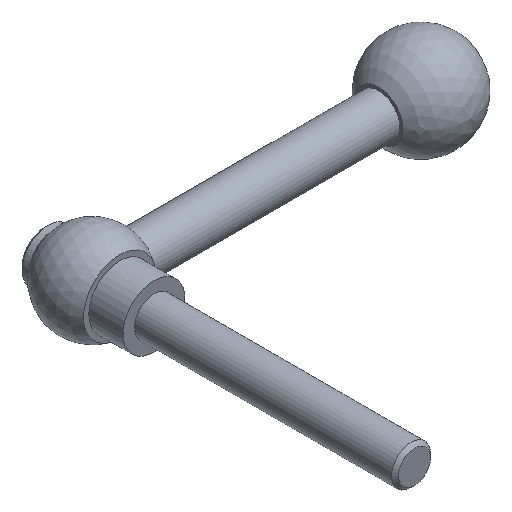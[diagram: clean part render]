
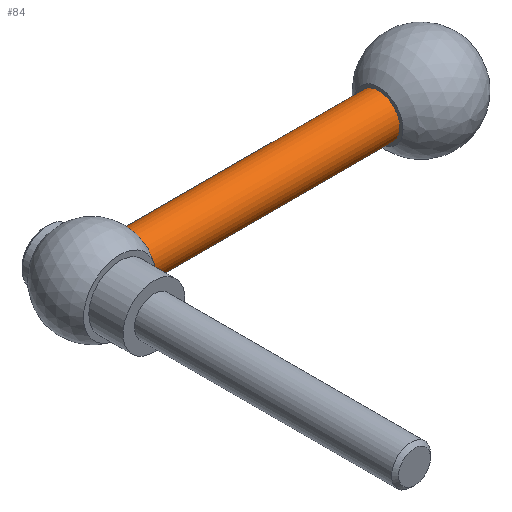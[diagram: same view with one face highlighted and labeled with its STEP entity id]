
A CAD part, isometric view. The second image highlights one B-rep face of the part: STEP entity #84.
In plain terms, the highlighted cylindrical face has radius 6.5 mm (diameter 13 mm), a full revolution.
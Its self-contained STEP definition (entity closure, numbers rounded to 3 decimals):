
#84 = ADVANCED_FACE( '', ( #116, #117 ), #118, .T. );
#116 = FACE_OUTER_BOUND( '', #154, .T. );
#117 = FACE_OUTER_BOUND( '', #155, .T. );
#118 = CYLINDRICAL_SURFACE( '', #156, 6.5 );
#154 = EDGE_LOOP( '', ( #210 ) );
#155 = EDGE_LOOP( '', ( #211 ) );
#156 = AXIS2_PLACEMENT_3D( '', #212, #213, #214 );
#210 = ORIENTED_EDGE( '', *, *, #239, .F. );
#211 = ORIENTED_EDGE( '', *, *, #236, .F. );
#212 = CARTESIAN_POINT( '', ( 116., 19., 0. ) );
#213 = DIRECTION( '', ( -1., 0., 0. ) );
#214 = DIRECTION( '', ( 0., 0., -1. ) );
#236 = EDGE_CURVE( '', #256, #256, #257, .T. );
#239 = EDGE_CURVE( '', #262, #262, #263, .T. );
#256 = VERTEX_POINT( '', #280 );
#257 = CIRCLE( '', #281, 6.5 );
#262 = VERTEX_POINT( '', #286 );
#263 = CIRCLE( '', #287, 6.5 );
#280 = CARTESIAN_POINT( '', ( 12.4, 19., 6.5 ) );
#281 = AXIS2_PLACEMENT_3D( '', #311, #312, #313 );
#286 = CARTESIAN_POINT( '', ( 88., 19., -6.5 ) );
#287 = AXIS2_PLACEMENT_3D( '', #320, #321, #322 );
#311 = CARTESIAN_POINT( '', ( 12.4, 19., 0. ) );
#312 = DIRECTION( '', ( -1., 0., 0. ) );
#313 = DIRECTION( '', ( 0., 0., 1. ) );
#320 = CARTESIAN_POINT( '', ( 88., 19., 0. ) );
#321 = DIRECTION( '', ( 1., 0., 0. ) );
#322 = DIRECTION( '', ( 0., 0., -1. ) );
